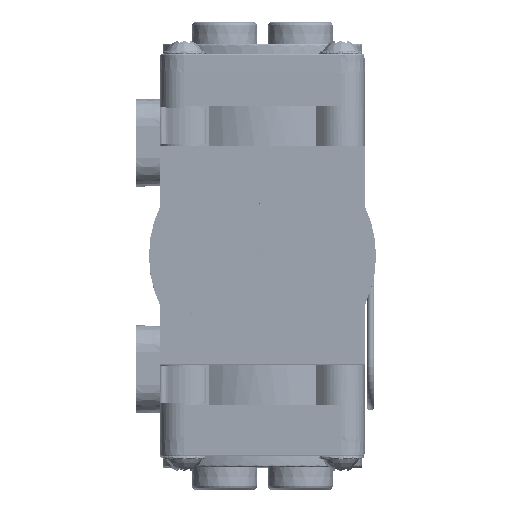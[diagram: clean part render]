
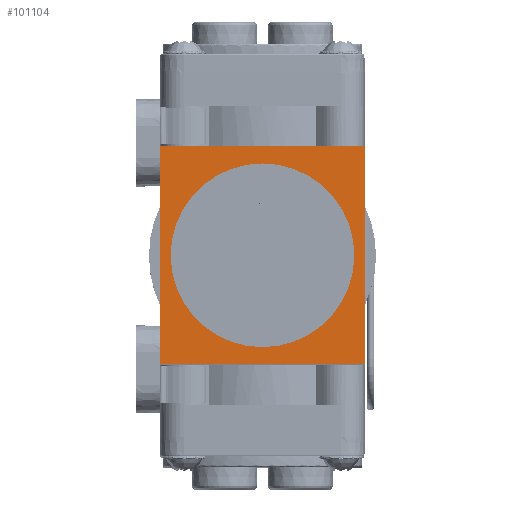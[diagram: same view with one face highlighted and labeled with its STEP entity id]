
A CAD part, top view. The second image highlights one B-rep face of the part: STEP entity #101104.
In plain terms, the highlighted planar face has unit normal (0, 0, 1).
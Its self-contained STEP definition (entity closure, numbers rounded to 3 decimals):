
#2383 = CARTESIAN_POINT ( 'NONE',  ( -18.9, 20.2, 21.63 ) ) ;
#3162 = FACE_OUTER_BOUND ( 'NONE', #20837, .T. ) ;
#7372 = VECTOR ( 'NONE', #53242, 1000. ) ;
#12871 = EDGE_CURVE ( 'NONE', #116414, #65620, #116477, .T. ) ;
#14465 = CARTESIAN_POINT ( 'NONE',  ( 18.9, 20.2, 21.63 ) ) ;
#14514 = CARTESIAN_POINT ( 'NONE',  ( 18.9, 20.2, 21.63 ) ) ;
#17236 = EDGE_CURVE ( 'NONE', #65620, #102182, #106864, .T. ) ;
#19464 = VERTEX_POINT ( 'NONE', #58269 ) ;
#19671 = AXIS2_PLACEMENT_3D ( 'NONE', #60914, #41088, #87025 ) ;
#20837 = EDGE_LOOP ( 'NONE', ( #45645, #43377, #100828, #122509 ) ) ;
#21685 = CIRCLE ( 'NONE', #19671, 17. ) ;
#31694 = PLANE ( 'NONE',  #66722 ) ;
#41088 = DIRECTION ( 'NONE',  ( 0., 0., 1. ) ) ;
#41130 = VERTEX_POINT ( 'NONE', #95270 ) ;
#41223 = DIRECTION ( 'NONE',  ( -1., 0., 0. ) ) ;
#43377 = ORIENTED_EDGE ( 'NONE', *, *, #12871, .T. ) ;
#45645 = ORIENTED_EDGE ( 'NONE', *, *, #75765, .T. ) ;
#48298 = DIRECTION ( 'NONE',  ( -1., 0., 0. ) ) ;
#53242 = DIRECTION ( 'NONE',  ( 0., 1., 0. ) ) ;
#57390 = DIRECTION ( 'NONE',  ( 1., 0., 0. ) ) ;
#58269 = CARTESIAN_POINT ( 'NONE',  ( 17., 0., 21.63 ) ) ;
#59332 = VECTOR ( 'NONE', #48298, 1000. ) ;
#60914 = CARTESIAN_POINT ( 'NONE',  ( 0., 0., 21.63 ) ) ;
#62356 = VECTOR ( 'NONE', #90790, 1000. ) ;
#65620 = VERTEX_POINT ( 'NONE', #14465 ) ;
#66722 = AXIS2_PLACEMENT_3D ( 'NONE', #70588, #80760, #41223 ) ;
#70588 = CARTESIAN_POINT ( 'NONE',  ( 18.9, 20.2, 21.63 ) ) ;
#75765 = EDGE_CURVE ( 'NONE', #41130, #116414, #97460, .T. ) ;
#80760 = DIRECTION ( 'NONE',  ( 0., 0., 1. ) ) ;
#81205 = EDGE_CURVE ( 'NONE', #19464, #19464, #21685, .T. ) ;
#86712 = CARTESIAN_POINT ( 'NONE',  ( 18.9, -20.2, 21.63 ) ) ;
#87025 = DIRECTION ( 'NONE',  ( 1., 0., 0. ) ) ;
#90259 = FACE_BOUND ( 'NONE', #118311, .T. ) ;
#90790 = DIRECTION ( 'NONE',  ( 0., -1., 0. ) ) ;
#95270 = CARTESIAN_POINT ( 'NONE',  ( -18.9, -20.2, 21.63 ) ) ;
#97460 = LINE ( 'NONE', #86712, #120838 ) ;
#99058 = CARTESIAN_POINT ( 'NONE',  ( -18.9, 20.2, 21.63 ) ) ;
#100828 = ORIENTED_EDGE ( 'NONE', *, *, #17236, .T. ) ;
#101104 = ADVANCED_FACE ( 'NONE', ( #90259, #3162 ), #31694, .T. ) ;
#102182 = VERTEX_POINT ( 'NONE', #2383 ) ;
#105289 = EDGE_CURVE ( 'NONE', #102182, #41130, #118813, .T. ) ;
#106864 = LINE ( 'NONE', #115773, #59332 ) ;
#112797 = ORIENTED_EDGE ( 'NONE', *, *, #81205, .F. ) ;
#113049 = CARTESIAN_POINT ( 'NONE',  ( 18.9, -20.2, 21.63 ) ) ;
#115773 = CARTESIAN_POINT ( 'NONE',  ( 18.9, 20.2, 21.63 ) ) ;
#116414 = VERTEX_POINT ( 'NONE', #113049 ) ;
#116477 = LINE ( 'NONE', #14514, #7372 ) ;
#118311 = EDGE_LOOP ( 'NONE', ( #112797 ) ) ;
#118813 = LINE ( 'NONE', #99058, #62356 ) ;
#120838 = VECTOR ( 'NONE', #57390, 1000. ) ;
#122509 = ORIENTED_EDGE ( 'NONE', *, *, #105289, .T. ) ;
